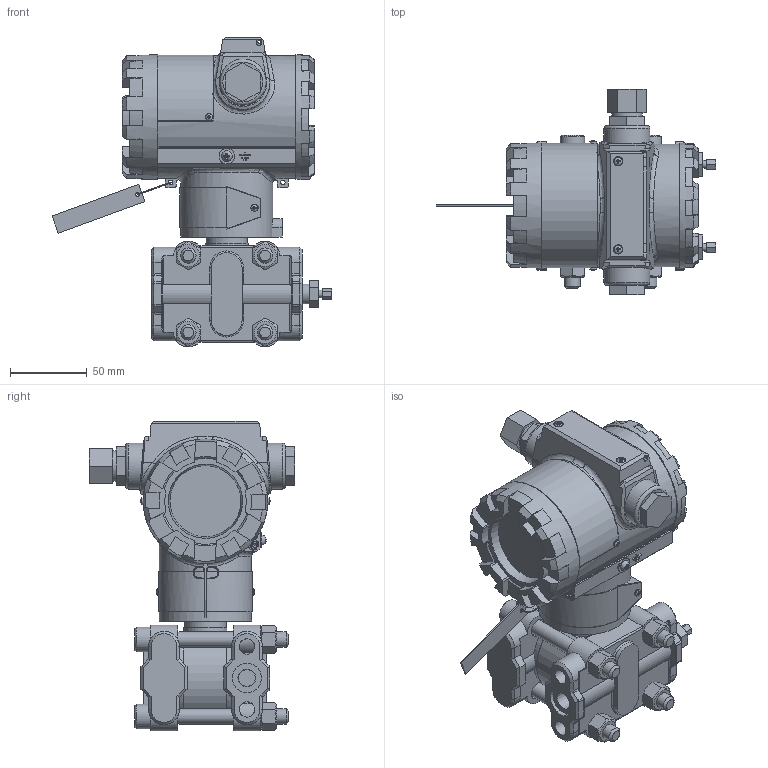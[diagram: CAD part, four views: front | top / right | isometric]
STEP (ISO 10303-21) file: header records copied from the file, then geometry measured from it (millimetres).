
FILE_DESCRIPTION(('STEP AP203'), '1');
FILE_NAME('ﾀ碵鸙鮱 萵粱褊韃 - ﾝﾌﾈﾑ-ﾁﾀﾐ 133', '', ('UNSPECIFIED'), ('UNSPECIFIED'), 'C3D Converter', 'C3D Toolkit', '');
FILE_SCHEMA(('CONFIG_CONTROL_DESIGN'));
Length unit declared in the file: millimetre
Bounding box: 182.23 x 133.5 x 201.78 mm (x, y, z)
Volume: 448332.2 mm3; surface area: 206877.4 mm2
Topology: 12 solids, 13 shells, 1347 faces, 3500 edges, 2243 vertices
Faces by surface type: plane 775, cylinder 333, cone 120, bspline 84, torus 27, sphere 7, extrusion 1
Full cylindrical faces by diameter (mm): 1.6 x4, 2 x4, 2.5 x7, 2.8 x1, 3 x7, 3.165 x4, 3.8 x3, 4 x7, 4.5 x4, 5 x4, 5.5 x2, 6 x2, 8 x4, 10 x15, 11 x1, 12 x8, 13 x2, 15 x1, 16 x4, 19 x3, 20 x2, 27 x1, 28 x1, 30 x3, 51.823 x1, 51.962 x1, 52 x1, 52.891 x1, 55 x1, 56 x3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
Entity records: 69269 total; most frequent: CARTESIAN_POINT 26671, ORIENTED_EDGE 6597, DIRECTION 6328, EDGE_CURVE 3305, AXIS2_PLACEMENT_3D 2301, VERTEX_POINT 2229, VECTOR 1726, LINE 1725
